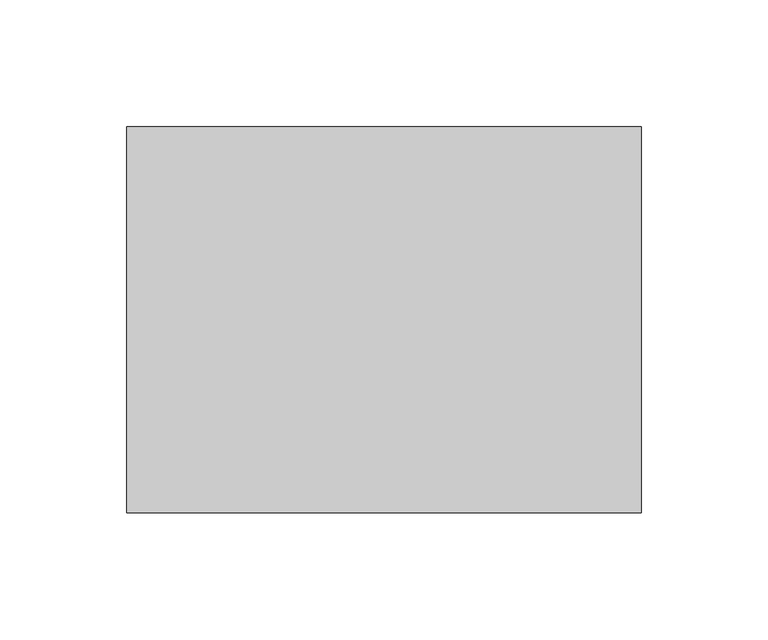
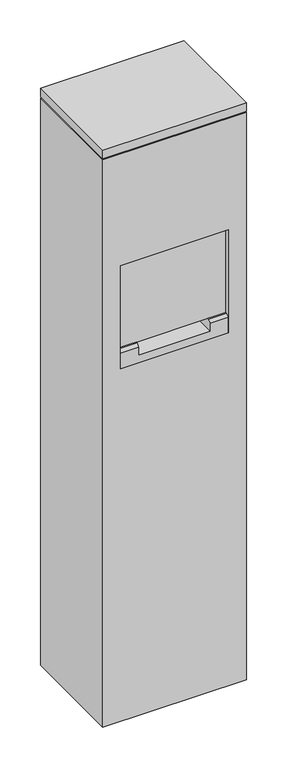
"""IFC4 building model written with IfcOpenShell, lengths in millimetres: proxy geometry, Charging_Station-Wiremold-Power_Pedestal : Power Pedestal, 2 Gangs (0x GFCI, 0x 4USB), Black."""

from ifc_helpers import new_model, si_unit, frame, origin, origin_with_axes, place, context, project, spatial, polyline, circle_curve, outline, extrude, faceted_brep, source, transform, mapped, element, save
from ifc_brep_helpers import plane_surface, revolved_surface, advanced_brep


def electrical_fixtures_87f1627c(model_context):
    return source(origin(), model_context, "Body", "SolidModel", [
        faceted_brep([(76.2, -76.2, 527.812), (76.2, 19.05, 527.812), (76.2, 19.05, 554.99), (76.2, -72.136, 554.99), (76.2, -76.2, 550.926), (-76.2, -76.2, 527.812), (-76.2, -76.2, 550.926), (-76.2, -72.136, 554.99), (-76.2, 19.05, 554.99), (-76.2, 19.05, 527.812), (-50.8, -72.136, 554.99), (-50.8, -31.8809117, 554.99), (50.8, -31.8809117, 554.99), (50.8, -72.136, 554.99), (50.8, -76.2, 550.926), (50.8, -76.2, 539.115), (-50.8, -76.2, 539.115), (-50.8, -76.2, 550.926), (50.8, -50.8, 539.115), (-50.8, -50.8, 539.115)], [[[0, 1, 2, 3, 4]], [[5, 6, 7, 8, 9]], [[1, 0, 5, 9]], [[2, 1, 9, 8]], [[3, 2, 8, 7, 10, 11, 12, 13]], [[0, 4, 14, 15, 16, 17, 6, 5]], [[12, 18, 15, 14, 13]], [[16, 19, 11, 10, 17]], [[18, 12, 11, 19]], [[15, 18, 19, 16]], [[4, 3, 13, 14]], [[7, 6, 17, 10]]]),
        advanced_brep(
        [(101.6, 76.2, 849.122), (-101.6, 76.2, 849.122), (-101.6, -76.2, 849.122), (101.6, -76.2, 849.122), (101.6, 76.2, 0.0), (101.6, -76.2, 0.0), (-101.6, -76.2, 0.0), (-101.6, 76.2, 0.0), (-55.0037, 0.0, 0.0), (55.0037, 0.0, 0.0), (76.2, -76.2, 681.99), (76.2, -76.2, 527.812), (-76.2, -76.2, 527.812), (-76.2, -76.2, 681.99), (76.2, 19.05, 681.99), (76.2, 19.05, 527.812), (76.2, -70.612, 681.99), (76.2, -70.612, 713.74), (76.2, -38.1, 713.74), (76.2, -38.1, 681.99), (-76.2, 19.05, 681.99), (-76.2, -38.1, 681.99), (-76.2, -38.1, 713.74), (-76.2, -70.612, 713.74), (-76.2, -70.612, 681.99), (-76.2, 19.05, 527.812), (-55.0037, 0.0, 203.2), (55.0037, 0.0, 203.2)],
        [
            (0, 1),
            (1, 2),
            (2, 3),
            (3, 0),
            (4, 5),
            (5, 6),
            (6, 7),
            (7, 4),
            (8, 9, circle_curve(origin_with_axes(), 55.0037)),
            (9, 8, circle_curve(origin_with_axes(), 55.0037)),
            (0, 4),
            (7, 1),
            (6, 2),
            (5, 3),
            (10, 11),
            (11, 12),
            (12, 13),
            (13, 10),
            (14, 15),
            (15, 11),
            (10, 16),
            (16, 17),
            (17, 18),
            (18, 19),
            (19, 14),
            (20, 21),
            (21, 22),
            (22, 23),
            (23, 24),
            (24, 13),
            (12, 25),
            (25, 20),
            (19, 21),
            (20, 14),
            (15, 25),
            (18, 22),
            (17, 23),
            (16, 24),
            (26, 27, circle_curve(frame((0.0, 0.0, 203.2), z_axis=(0.0, 0.0, -1.0), x_axis=(1.0, 0.0, 0.0)), 55.0037)),
            (27, 26, circle_curve(frame((0.0, 0.0, 203.2), z_axis=(0.0, 0.0, -1.0), x_axis=(1.0, 0.0, 0.0)), 55.0037)),
            (27, 9),
            (8, 26),
        ],
        [
            plane_surface(frame((-101.6, 76.2, 849.122), z_axis=(0.0, 0.0, 1.0), x_axis=(-1.0, 0.0, 0.0))),
            plane_surface(frame((-101.6, 76.2, 0.0), z_axis=(0.0, 0.0, -1.0), x_axis=(1.0, 0.0, 0.0))),
            plane_surface(frame((101.6, 76.2, 849.122), z_axis=(0.0, 1.0, 0.0), x_axis=(0.0, 0.0, -1.0))),
            plane_surface(frame((-101.6, 76.2, 849.122), z_axis=(-1.0, 0.0, 0.0), x_axis=(0.0, 0.0, -1.0))),
            plane_surface(frame((-101.6, -76.2, 849.122), z_axis=(0.0, -1.0, 0.0), x_axis=(0.0, 0.0, -1.0))),
            plane_surface(frame((101.6, -76.2, 849.122), z_axis=(1.0, 0.0, 0.0), x_axis=(0.0, 0.0, -1.0))),
            plane_surface(frame((76.2, -38.1, 681.99), z_axis=(-1.0, 0.0, 0.0), x_axis=(0.0, -1.0, 0.0))),
            plane_surface(frame((-76.2, -38.1, 681.99), z_axis=(1.0, 0.0, 0.0), x_axis=(0.0, 1.0, 0.0))),
            plane_surface(frame((76.2, 19.05, 681.99), z_axis=(0.0, 0.0, -1.0), x_axis=(-1.0, 0.0, 0.0))),
            plane_surface(frame((76.2, -76.2, 527.812), z_axis=(0.0, 0.0, 1.0), x_axis=(-1.0, 0.0, 0.0))),
            plane_surface(frame((76.2, 19.05, 527.812), z_axis=(0.0, -1.0, 0.0), x_axis=(-1.0, 0.0, 0.0))),
            plane_surface(frame((76.2, -38.1, 681.99), z_axis=(0.0, -1.0, 0.0), x_axis=(-1.0, 0.0, 0.0))),
            plane_surface(frame((76.2, -38.1, 713.74), z_axis=(0.0, 0.0, -1.0), x_axis=(-1.0, 0.0, 0.0))),
            plane_surface(frame((76.2, -70.612, 713.74), z_axis=(0.0, 1.0, 0.0), x_axis=(-1.0, 0.0, 0.0))),
            plane_surface(frame((76.2, -70.612, 681.99), z_axis=(0.0, 0.0, -1.0), x_axis=(-1.0, 0.0, 0.0))),
            plane_surface(frame((55.0037, 0.0, 203.2), z_axis=(0.0, 0.0, -1.0), x_axis=(0.0, 1.0, 0.0))),
            revolved_surface(polyline([(55.0037, 0.0, 203.2), (55.0037, 0.0, 0.0)]), (0.0, 0.0, 0.0), (0.0, 0.0, 1.0)),
        ],
        [
            (0, [[1, 2, 3, 4]]),
            (1, [[5, 6, 7, 8], [9, 10]]),
            (2, [[-1, 11, -8, 12]]),
            (3, [[-2, -12, -7, 13]]),
            (4, [[-3, -13, -6, 14], [15, 16, 17, 18]]),
            (5, [[-4, -14, -5, -11]]),
            (6, [[19, 20, -15, 21, 22, 23, 24, 25]]),
            (7, [[26, 27, 28, 29, 30, -17, 31, 32]]),
            (8, [[-25, 33, -26, 34]]),
            (9, [[-20, 35, -31, -16]]),
            (10, [[-19, -34, -32, -35]]),
            (11, [[-24, 36, -27, -33]]),
            (12, [[-23, 37, -28, -36]]),
            (13, [[-22, 38, -29, -37]]),
            (14, [[-21, -18, -30, -38]]),
            (15, [[39, 40]]),
            (16, [[-40, 41, -9, 42]]),
            (16, [[-39, -42, -10, -41]]),
        ],
    ),
        extrude(outline(polyline([(76.2, -38.1), (76.2, -70.612), (-76.2, -70.612), (-76.2, -38.1), (76.2, -38.1)])), frame((0.0, 0.0, 554.99), z_axis=(0.0, 0.0, 1.0), x_axis=(1.0, 0.0, 0.0)), (0.0, 0.0, 1.0), 158.75),
        extrude(outline(polyline([(99.822, 74.422), (99.822, -74.422), (-99.822, -74.422), (-99.822, 74.422), (99.822, 74.422)])), frame((0.0, 0.0, 849.122), z_axis=(0.0, 0.0, 1.0), x_axis=(1.0, 0.0, 0.0)), (0.0, 0.0, 1.0), 1.778),
        extrude(outline(polyline([(101.6, 76.2), (101.6, -76.2), (-101.6, -76.2), (-101.6, 76.2), (101.6, 76.2)])), frame((0.0, 0.0, 850.9), z_axis=(0.0, 0.0, 1.0), x_axis=(1.0, 0.0, 0.0)), (0.0, 0.0, 1.0), 12.7),
    ])


if __name__ == "__main__":
    model = new_model("IFC4")
    model_context = context("Model", 3, world=origin())
    ifc_project = project(units=[si_unit("LENGTHUNIT", "METRE", prefix="MILLI")], contexts=[model_context])
    site = spatial("IfcSite", under=ifc_project)
    building = spatial("IfcBuilding", under=site)
    placement = place(None, origin())
    electrical_fixtures_shape = electrical_fixtures_87f1627c(model_context)
    element("IfcBuildingElementProxy", 1, Name="Charging_Station-Wiremold-Power_Pedestal : Power Pedestal, 2 Gangs (0x GFCI, 0x 4USB), Black", ObjectType="Charging_Station-Wiremold-Power_Pedestal : Power Pedestal, 2 Gangs (0x GFCI, 0x 4USB), Black", at=placement, inside=building, context=model_context, shape_type="MappedRepresentation", body=[
        mapped(electrical_fixtures_shape, transform((0.0, 0.0, 0.0), x_axis=(1.0, 0.0, 0.0), y_axis=(0.0, 1.0, 0.0), z_axis=(0.0, 0.0, 1.0))),
    ])
    save(model, "model.ifc")
